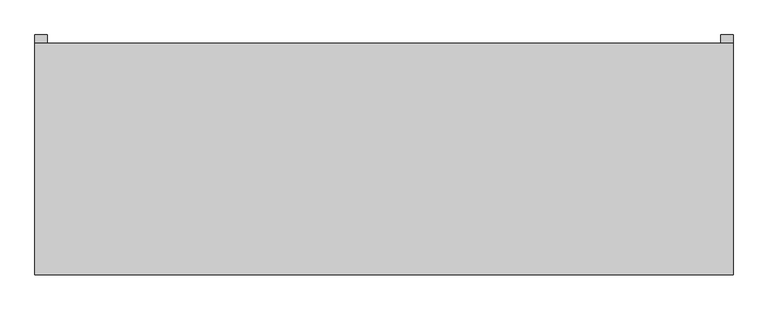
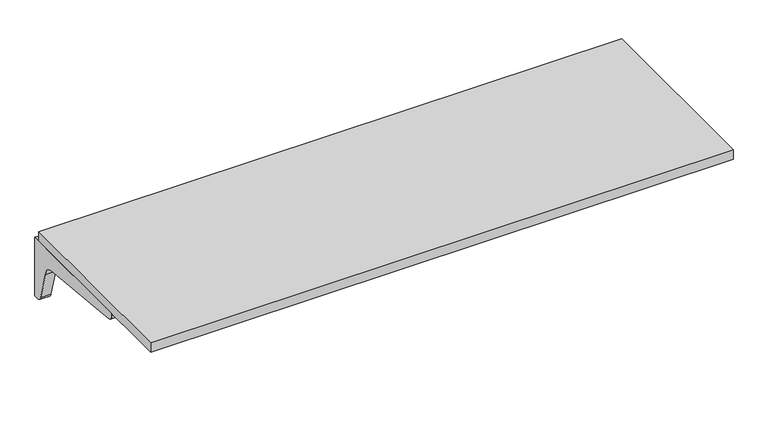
"""IFC4 building model written with IfcOpenShell, lengths in millimetres: furniture geometry."""

from ifc_helpers import new_model, si_unit, point, frame, frame_2d, origin, place, context, project, spatial, polyline, circle_curve, trimmed, segment, composite_curve, outline, extrude, source, transform, mapped, element, save


def furniture_f3dbc57d(model_context):
    return source(origin(), model_context, "Body", "SweptSolid", [
        extrude(outline(composite_curve([segment(polyline([(314.325, 704.85), (314.325, 511.175), (301.625, 511.175)]), True, "CONTINUOUS"), segment(trimmed(circle_curve(frame_2d((299.3081081, 528.3371622)), 17.3178462), [point((301.625, 511.175))], [point((282.575, 523.875))], False, "CARTESIAN"), True, "CONTINUOUS"), segment(polyline([(282.575, 523.875), (257.175, 615.95)]), True, "CONTINUOUS"), segment(trimmed(circle_curve(frame_2d((221.8170455, 612.3420455)), 35.5415572), [point((257.175, 615.95))], [point((225.425, 647.7))], True, "CARTESIAN"), True, "CONTINUOUS"), segment(polyline([(225.425, 647.7), (-85.725, 679.45)]), True, "CONTINUOUS"), segment(trimmed(circle_curve(frame_2d((-85.725, 698.5)), 19.05), [point((-85.725, 679.45))], [point((-104.775, 698.5))], False, "CARTESIAN"), True, "CONTINUOUS"), segment(polyline([(-104.775, 698.5), (-104.775, 704.85), (314.325, 704.85)]), True, "CONTINUOUS")], self_intersect=False)), frame((882.65, 0.0, 0.0), z_axis=(1.0, 0.0, 0.0), x_axis=(0.0, 1.0, 0.0)), (0.0, 0.0, 1.0), 31.75),
        extrude(outline(composite_curve([segment(polyline([(314.325, 704.85), (314.325, 511.175), (301.625, 511.175)]), True, "CONTINUOUS"), segment(trimmed(circle_curve(frame_2d((299.3081081, 528.3371622)), 17.3178462), [point((301.625, 511.175))], [point((282.575, 523.875))], False, "CARTESIAN"), True, "CONTINUOUS"), segment(polyline([(282.575, 523.875), (257.175, 615.95)]), True, "CONTINUOUS"), segment(trimmed(circle_curve(frame_2d((221.8170455, 612.3420455)), 35.5415572), [point((257.175, 615.95))], [point((225.425, 647.7))], True, "CARTESIAN"), True, "CONTINUOUS"), segment(polyline([(225.425, 647.7), (-85.725, 679.45)]), True, "CONTINUOUS"), segment(trimmed(circle_curve(frame_2d((-85.725, 698.5)), 19.05), [point((-85.725, 679.45))], [point((-104.775, 698.5))], False, "CARTESIAN"), True, "CONTINUOUS"), segment(polyline([(-104.775, 698.5), (-104.775, 704.85), (314.325, 704.85)]), True, "CONTINUOUS")], self_intersect=False)), frame((-914.4, 0.0, 0.0), z_axis=(1.0, 0.0, 0.0), x_axis=(0.0, 1.0, 0.0)), (0.0, 0.0, 1.0), 31.75),
        extrude(outline(polyline([(-914.4, 292.1), (914.4, 292.1), (914.4, -314.325), (-914.4, -314.325), (-914.4, 292.1)])), frame((0.0, 0.0, 704.85), z_axis=(0.0, 0.0, 1.0), x_axis=(1.0, 0.0, 0.0)), (0.0, 0.0, 1.0), 31.75),
    ])


if __name__ == "__main__":
    model = new_model("IFC4")
    model_context = context("Model", 3, world=origin())
    ifc_project = project(units=[si_unit("LENGTHUNIT", "METRE", prefix="MILLI")], contexts=[model_context])
    site = spatial("IfcSite", under=ifc_project)
    building = spatial("IfcBuilding", under=site)
    placement = place(None, origin())
    furniture_shape = furniture_f3dbc57d(model_context)
    element("IfcFurniture", 1, ObjectType="HermanMiller_ActionOffice_A2310_Sq-EdgeRectangularWorkSurface : 24\"D x 72\"W", at=placement, inside=building, context=model_context, shape_type="MappedRepresentation", body=[
        mapped(furniture_shape, transform((0.0, 0.0, 0.0), x_axis=(1.0, 0.0, 0.0), y_axis=(0.0, 1.0, 0.0), z_axis=(0.0, 0.0, 1.0))),
    ])
    save(model, "model.ifc")
